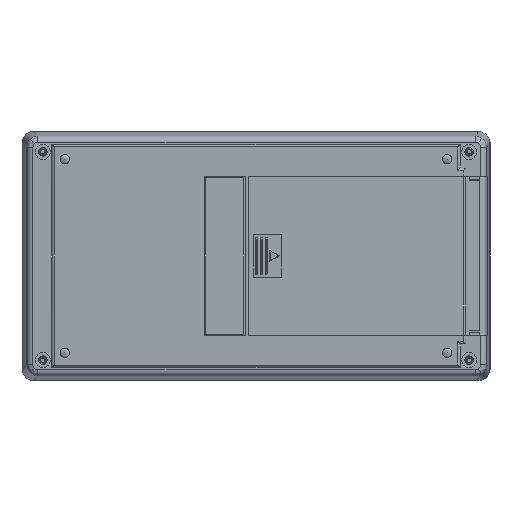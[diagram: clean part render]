
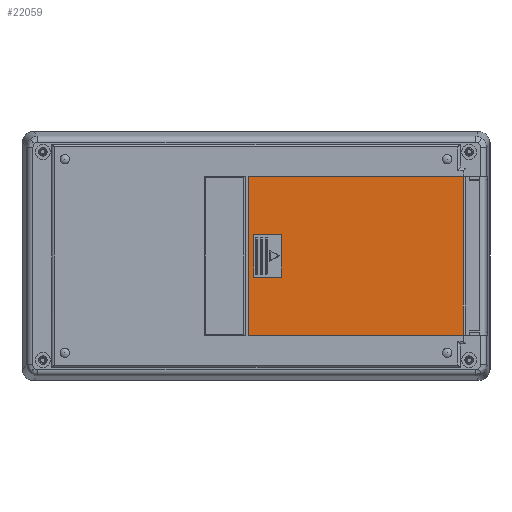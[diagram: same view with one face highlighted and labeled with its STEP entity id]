
A CAD part, front view. The second image highlights one B-rep face of the part: STEP entity #22059.
In plain terms, the highlighted planar face has unit normal (0, -1, 0).
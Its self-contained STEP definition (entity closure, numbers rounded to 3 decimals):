
#911 = DIRECTION ( 'NONE',  ( 1., 0., 0. ) ) ;
#1464 = DIRECTION ( 'NONE',  ( 1., 0., 0. ) ) ;
#2701 = CARTESIAN_POINT ( 'NONE',  ( 25.2, 0., 32.4 ) ) ;
#3237 = ORIENTED_EDGE ( 'NONE', *, *, #35801, .F. ) ;
#3257 = CARTESIAN_POINT ( 'NONE',  ( 38.7, 0., 8.75 ) ) ;
#4608 = EDGE_CURVE ( 'NONE', #20508, #25963, #12641, .T. ) ;
#4765 = VECTOR ( 'NONE', #23647, 1000. ) ;
#5147 = EDGE_LOOP ( 'NONE', ( #29391, #29066, #20247, #35448 ) ) ;
#5212 = DIRECTION ( 'NONE',  ( 1., 0., 0. ) ) ;
#5526 = CARTESIAN_POINT ( 'NONE',  ( 27.2, 0., 8.75 ) ) ;
#5529 = LINE ( 'NONE', #35589, #13284 ) ;
#5653 = VECTOR ( 'NONE', #18160, 1000. ) ;
#5905 = EDGE_CURVE ( 'NONE', #20891, #19973, #36891, .T. ) ;
#6865 = FACE_OUTER_BOUND ( 'NONE', #18476, .T. ) ;
#7678 = VERTEX_POINT ( 'NONE', #5526 ) ;
#9118 = CARTESIAN_POINT ( 'NONE',  ( 27.2, 0., 8.75 ) ) ;
#9764 = VECTOR ( 'NONE', #1464, 1000. ) ;
#10054 = VERTEX_POINT ( 'NONE', #18274 ) ;
#10262 = CARTESIAN_POINT ( 'NONE',  ( 25.2, 0., 32.4 ) ) ;
#10585 = VERTEX_POINT ( 'NONE', #18614 ) ;
#11482 = EDGE_CURVE ( 'NONE', #28573, #10585, #32246, .T. ) ;
#11738 = DIRECTION ( 'NONE',  ( 0., 0., -1. ) ) ;
#12489 = LINE ( 'NONE', #35780, #5653 ) ;
#12641 = LINE ( 'NONE', #21292, #26367 ) ;
#13284 = VECTOR ( 'NONE', #32486, 1000. ) ;
#13438 = VECTOR ( 'NONE', #5212, 1000. ) ;
#14167 = CARTESIAN_POINT ( 'NONE',  ( 25.2, 0., 32.4 ) ) ;
#14381 = VECTOR ( 'NONE', #11738, 1000. ) ;
#15721 = DIRECTION ( 'NONE',  ( 0., 1., 0. ) ) ;
#18160 = DIRECTION ( 'NONE',  ( 0., 0., 1. ) ) ;
#18204 = ORIENTED_EDGE ( 'NONE', *, *, #24644, .T. ) ;
#18272 = EDGE_CURVE ( 'NONE', #10054, #7678, #22581, .T. ) ;
#18274 = CARTESIAN_POINT ( 'NONE',  ( 38.7, 0., 8.75 ) ) ;
#18476 = EDGE_LOOP ( 'NONE', ( #29744, #3237, #30202, #18204 ) ) ;
#18614 = CARTESIAN_POINT ( 'NONE',  ( 112.7, 0., 32.4 ) ) ;
#19973 = VERTEX_POINT ( 'NONE', #27898 ) ;
#20247 = ORIENTED_EDGE ( 'NONE', *, *, #5905, .F. ) ;
#20508 = VERTEX_POINT ( 'NONE', #25167 ) ;
#20700 = DIRECTION ( 'NONE',  ( -1., 0., 0. ) ) ;
#20748 = VECTOR ( 'NONE', #20700, 1000. ) ;
#20891 = VERTEX_POINT ( 'NONE', #30184 ) ;
#21292 = CARTESIAN_POINT ( 'NONE',  ( 25.2, 0., -32.4 ) ) ;
#22059 = ADVANCED_FACE ( 'NONE', ( #31168, #6865 ), #27381, .F. ) ;
#22581 = LINE ( 'NONE', #3257, #20748 ) ;
#23647 = DIRECTION ( 'NONE',  ( 0., 0., -1. ) ) ;
#24644 = EDGE_CURVE ( 'NONE', #28573, #20508, #37853, .T. ) ;
#25167 = CARTESIAN_POINT ( 'NONE',  ( 25.2, 0., -32.4 ) ) ;
#25669 = CARTESIAN_POINT ( 'NONE',  ( 38.7, 0., -8.75 ) ) ;
#25833 = EDGE_CURVE ( 'NONE', #7678, #20891, #36896, .T. ) ;
#25963 = VERTEX_POINT ( 'NONE', #36299 ) ;
#26367 = VECTOR ( 'NONE', #911, 1000. ) ;
#27235 = AXIS2_PLACEMENT_3D ( 'NONE', #33327, #15721, #36283 ) ;
#27381 = PLANE ( 'NONE',  #27235 ) ;
#27898 = CARTESIAN_POINT ( 'NONE',  ( 38.7, 0., -8.75 ) ) ;
#28573 = VERTEX_POINT ( 'NONE', #2701 ) ;
#29066 = ORIENTED_EDGE ( 'NONE', *, *, #30129, .F. ) ;
#29391 = ORIENTED_EDGE ( 'NONE', *, *, #18272, .F. ) ;
#29744 = ORIENTED_EDGE ( 'NONE', *, *, #4608, .T. ) ;
#30129 = EDGE_CURVE ( 'NONE', #19973, #10054, #12489, .T. ) ;
#30184 = CARTESIAN_POINT ( 'NONE',  ( 27.2, 0., -8.75 ) ) ;
#30202 = ORIENTED_EDGE ( 'NONE', *, *, #11482, .F. ) ;
#31168 = FACE_BOUND ( 'NONE', #5147, .T. ) ;
#32246 = LINE ( 'NONE', #10262, #9764 ) ;
#32486 = DIRECTION ( 'NONE',  ( 0., 0., -1. ) ) ;
#33327 = CARTESIAN_POINT ( 'NONE',  ( 25.2, 0., 32.4 ) ) ;
#35448 = ORIENTED_EDGE ( 'NONE', *, *, #25833, .F. ) ;
#35589 = CARTESIAN_POINT ( 'NONE',  ( 112.7, 0., 32.4 ) ) ;
#35780 = CARTESIAN_POINT ( 'NONE',  ( 38.7, 0., 8.75 ) ) ;
#35801 = EDGE_CURVE ( 'NONE', #10585, #25963, #5529, .T. ) ;
#36283 = DIRECTION ( 'NONE',  ( 0., 0., 1. ) ) ;
#36299 = CARTESIAN_POINT ( 'NONE',  ( 112.7, 0., -32.4 ) ) ;
#36891 = LINE ( 'NONE', #25669, #13438 ) ;
#36896 = LINE ( 'NONE', #9118, #4765 ) ;
#37853 = LINE ( 'NONE', #14167, #14381 ) ;
